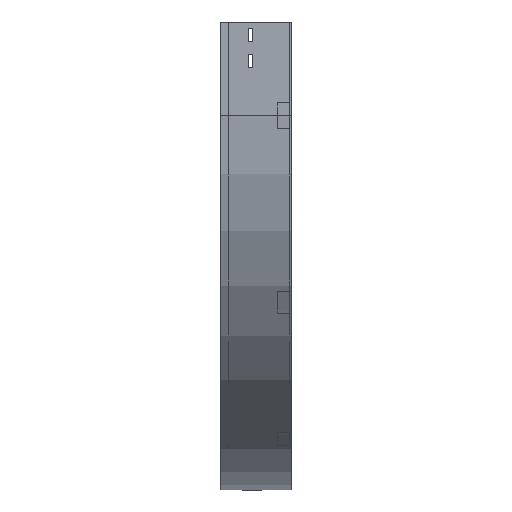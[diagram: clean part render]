
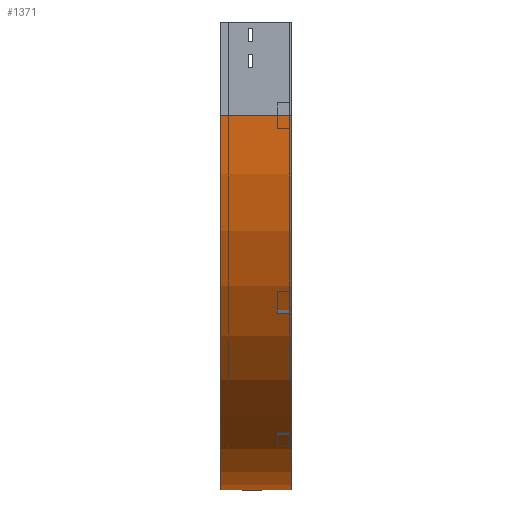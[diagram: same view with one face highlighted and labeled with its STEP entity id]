
A CAD part, left-side view. The second image highlights one B-rep face of the part: STEP entity #1371.
In plain terms, the highlighted cylindrical face has radius 600 mm (diameter 1200 mm), a partial arc.
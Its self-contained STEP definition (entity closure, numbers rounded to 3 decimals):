
#195 = DIRECTION ( 'NONE',  ( 0., -1., 0. ) ) ;
#258 = CARTESIAN_POINT ( 'NONE',  ( 600., 0., -750. ) ) ;
#319 = VERTEX_POINT ( 'NONE', #893 ) ;
#541 = DIRECTION ( 'NONE',  ( 0., -1., 0. ) ) ;
#559 = CYLINDRICAL_SURFACE ( 'NONE', #1861, 600. ) ;
#603 = ORIENTED_EDGE ( 'NONE', *, *, #938, .T. ) ;
#866 = EDGE_CURVE ( 'NONE', #3323, #3716, #2728, .T. ) ;
#870 = FACE_OUTER_BOUND ( 'NONE', #2365, .T. ) ;
#893 = CARTESIAN_POINT ( 'NONE',  ( 0., 0., -150. ) ) ;
#938 = EDGE_CURVE ( 'NONE', #3716, #986, #2035, .T. ) ;
#983 = ORIENTED_EDGE ( 'NONE', *, *, #3319, .F. ) ;
#986 = VERTEX_POINT ( 'NONE', #2309 ) ;
#1088 = CIRCLE ( 'NONE', #1592, 600. ) ;
#1371 = ADVANCED_FACE ( 'NONE', ( #870 ), #559, .T. ) ;
#1487 = DIRECTION ( 'NONE',  ( 0., 0., -1. ) ) ;
#1592 = AXIS2_PLACEMENT_3D ( 'NONE', #3621, #3274, #2984 ) ;
#1673 = DIRECTION ( 'NONE',  ( 0., -1., 0. ) ) ;
#1830 = ORIENTED_EDGE ( 'NONE', *, *, #2867, .F. ) ;
#1861 = AXIS2_PLACEMENT_3D ( 'NONE', #2898, #3264, #1487 ) ;
#1914 = DIRECTION ( 'NONE',  ( -1., 0., 0. ) ) ;
#2035 = LINE ( 'NONE', #258, #3619 ) ;
#2254 = LINE ( 'NONE', #2932, #3282 ) ;
#2309 = CARTESIAN_POINT ( 'NONE',  ( 600., 0., -750. ) ) ;
#2329 = CARTESIAN_POINT ( 'NONE',  ( 0., 112.5, -150. ) ) ;
#2365 = EDGE_LOOP ( 'NONE', ( #983, #1830, #3042, #603 ) ) ;
#2709 = CARTESIAN_POINT ( 'NONE',  ( 600., 112.5, -750. ) ) ;
#2728 = CIRCLE ( 'NONE', #3422, 600. ) ;
#2867 = EDGE_CURVE ( 'NONE', #3323, #319, #2254, .T. ) ;
#2898 = CARTESIAN_POINT ( 'NONE',  ( 600., 0., -150. ) ) ;
#2932 = CARTESIAN_POINT ( 'NONE',  ( 0., 0., -150. ) ) ;
#2984 = DIRECTION ( 'NONE',  ( -1., 0., 0. ) ) ;
#3042 = ORIENTED_EDGE ( 'NONE', *, *, #866, .T. ) ;
#3264 = DIRECTION ( 'NONE',  ( 0., -1., 0. ) ) ;
#3274 = DIRECTION ( 'NONE',  ( 0., -1., 0. ) ) ;
#3282 = VECTOR ( 'NONE', #1673, 1000. ) ;
#3319 = EDGE_CURVE ( 'NONE', #319, #986, #1088, .T. ) ;
#3323 = VERTEX_POINT ( 'NONE', #2329 ) ;
#3422 = AXIS2_PLACEMENT_3D ( 'NONE', #3766, #195, #1914 ) ;
#3619 = VECTOR ( 'NONE', #541, 1000. ) ;
#3621 = CARTESIAN_POINT ( 'NONE',  ( 600., 0., -150. ) ) ;
#3716 = VERTEX_POINT ( 'NONE', #2709 ) ;
#3766 = CARTESIAN_POINT ( 'NONE',  ( 600., 112.5, -150. ) ) ;
